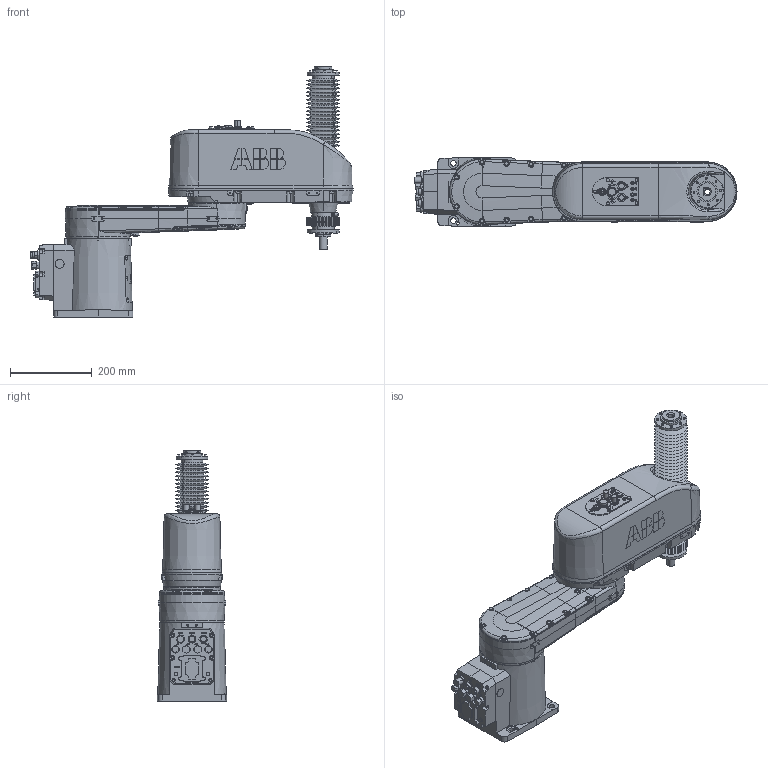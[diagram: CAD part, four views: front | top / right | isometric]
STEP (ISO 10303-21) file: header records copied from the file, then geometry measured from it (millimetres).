
FILE_DESCRIPTION (( 'STEP AP214' ), '1' );
FILE_NAME ('IRB920T_6kg-550-145-IP54-STD_OmniCore_rev00_Assembly.step', '2021-10-28T02:20:48', ( '' ), ( '' ), 'SwSTEP 2.0', 'SolidWorks 2018', '' );
FILE_SCHEMA (( 'AUTOMOTIVE_DESIGN' ));
Length unit declared in the file: millimetre
Products named in the file (5): IRB920T_6kg-550-145-IP54CR-STD_OmniCore_rev00_LINK2_CAD; IRB920T_6kg-550-145-IP54CR-STD_OmniCore_rev00_LINK3_CAD; IRB920T_6kg-550-145-IP54-STD_OmniCore_rev00_LINK0_CAD; IRB920T_6kg-550-145-IP54-STD_OmniCore_rev00_Assembly; IRB920T_6kg-550-145-IP54CR-STD_OmniCore_rev00_LINK1_CAD
Assembly tree (4 placements, depth 2):
  IRB920T_6kg-550-145-IP54-STD_OmniCore_rev00_Assembly
    IRB920T_6kg-550-145-IP54-STD_OmniCore_rev00_LINK0_CAD
    IRB920T_6kg-550-145-IP54CR-STD_OmniCore_rev00_LINK1_CAD
    IRB920T_6kg-550-145-IP54CR-STD_OmniCore_rev00_LINK2_CAD
    IRB920T_6kg-550-145-IP54CR-STD_OmniCore_rev00_LINK3_CAD
Bounding box: 787 x 170 x 610.8 mm (x, y, z)
Volume: 19860878.2 mm3; surface area: 1027863.7 mm2
Topology: 4 solids, 4 shells, 2477 faces, 6253 edges, 4014 vertices
Faces by surface type: plane 1252, cylinder 442, bspline 389, cone 378, torus 14, sphere 2
Entity records: 103981 total; most frequent: CARTESIAN_POINT 37765, ORIENTED_EDGE 12360, DIRECTION 10131, EDGE_CURVE 6180, VERTEX_POINT 4014, LINE 3617, VECTOR 3617, AXIS2_PLACEMENT_3D 3257
